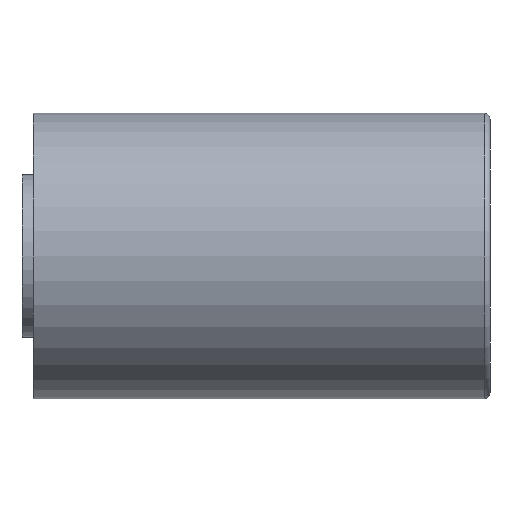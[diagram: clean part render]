
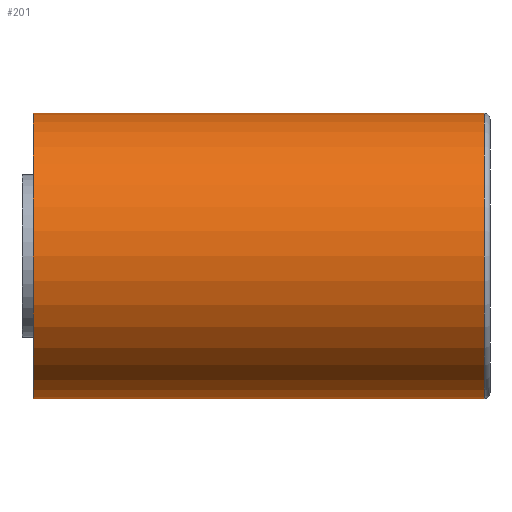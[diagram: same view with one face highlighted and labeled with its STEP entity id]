
A CAD part, front view. The second image highlights one B-rep face of the part: STEP entity #201.
In plain terms, the highlighted cylindrical face has radius 2.5 mm (diameter 5 mm), a full revolution.
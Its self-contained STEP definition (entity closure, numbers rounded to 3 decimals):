
#201 = ADVANCED_FACE( '', ( #475, #476 ), #477, .T. );
#475 = FACE_OUTER_BOUND( '', #960, .T. );
#476 = FACE_OUTER_BOUND( '', #961, .T. );
#477 = CYLINDRICAL_SURFACE( '', #962, 2.5 );
#960 = EDGE_LOOP( '', ( #1742 ) );
#961 = EDGE_LOOP( '', ( #1743 ) );
#962 = AXIS2_PLACEMENT_3D( '', #1744, #1745, #1746 );
#1742 = ORIENTED_EDGE( '', *, *, #3250, .T. );
#1743 = ORIENTED_EDGE( '', *, *, #3356, .F. );
#1744 = CARTESIAN_POINT( '', ( 7.05, 0., 0. ) );
#1745 = DIRECTION( '', ( -1., 0., 0. ) );
#1746 = DIRECTION( '', ( 0., 0., -1. ) );
#3250 = EDGE_CURVE( '', #3911, #3911, #3912, .T. );
#3356 = EDGE_CURVE( '', #4099, #4099, #4100, .T. );
#3911 = VERTEX_POINT( '', #4902 );
#3912 = CIRCLE( '', #4903, 2.5 );
#4099 = VERTEX_POINT( '', #5171 );
#4100 = CIRCLE( '', #5172, 2.5 );
#4902 = CARTESIAN_POINT( '', ( -0.95, 0., -2.5 ) );
#4903 = AXIS2_PLACEMENT_3D( '', #6156, #6157, #6158 );
#5171 = CARTESIAN_POINT( '', ( 6.95, 0., -2.5 ) );
#5172 = AXIS2_PLACEMENT_3D( '', #6312, #6313, #6314 );
#6156 = CARTESIAN_POINT( '', ( -0.95, 0., 0. ) );
#6157 = DIRECTION( '', ( 1., 0., 0. ) );
#6158 = DIRECTION( '', ( 0., 0., -1. ) );
#6312 = CARTESIAN_POINT( '', ( 6.95, 0., 0. ) );
#6313 = DIRECTION( '', ( 1., 0., 0. ) );
#6314 = DIRECTION( '', ( 0., 0., -1. ) );
